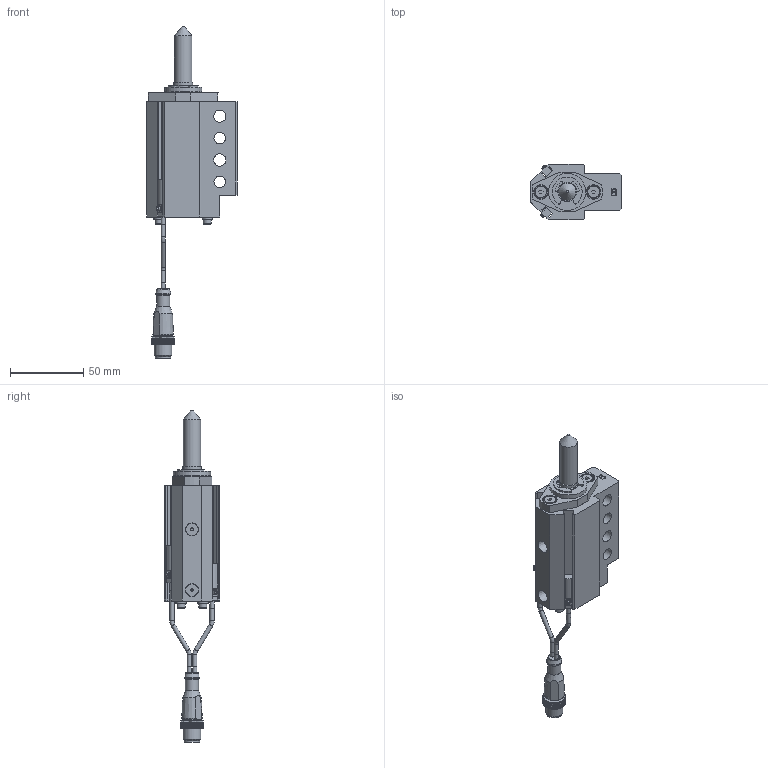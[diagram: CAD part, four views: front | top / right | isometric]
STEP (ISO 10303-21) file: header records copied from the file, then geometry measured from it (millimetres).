
FILE_DESCRIPTION(/* description */ ('NAAMS FLOATING MICRO PIN'),/* implementation_level */ '2;1');
FILE_NAME(/* name */ 'C:\Vault Workspace\CAD\Welker\Shot Pin\NMP\NMP120032ABNL3.stp',/* time_stamp */ '2021-01-27T10:42:57-05:00',/* author */ ('WELKER'),/* organization */ (''),/* preprocessor_version */ 'ST-DEVELOPER v18.1',/* originating_system */ 'Autodesk Inventor 2020',/* authorisation */ '');
FILE_SCHEMA (('AUTOMOTIVE_DESIGN { 1 0 10303 214 3 1 1 }'));
Length unit declared in the file: millimetre
Products named in the file (16): NMPL01; NMP L3 SWITCH; L3 Connector; L3 Sensor 1; L3 Sensor 2; L3 Sensor cable; L3 Sensor cable 2; M3X0.5-8 SHCS; NL3; NMPE06; NMPE03; NMPE05-DIA-LENGTH; 985432A218; NMPE01B-PORT; RMPE02; M5X5 SHOULDER
Assembly tree (22 placements, depth 3):
  NMPL01
    NMP L3 SWITCH
      L3 Connector
      L3 Sensor 1
      L3 Sensor 2
      L3 Sensor cable
      L3 Sensor cable 2
    M3X0.5-8 SHCS  x4
    NL3  x4
    NMPE06
    NMPE03
    NMPE05-DIA-LENGTH
    985432A218
    NMPE01B-PORT
    RMPE02
    M5X5 SHOULDER  x2
Bounding box: 62 x 38.1 x 227.12 mm (x, y, z)
Volume: 113701.3 mm3; surface area: 46076.1 mm2
Topology: 21 solids, 21 shells, 758 faces, 2052 edges, 1372 vertices
Faces by surface type: plane 553, cylinder 144, cone 31, bspline 16, torus 11, sphere 3
Full cylindrical faces by diameter (mm): 2 x2, 2.459 x4, 2.9 x10, 3 x5, 3.242 x2, 3.4 x4, 4 x2, 5 x6, 5.5 x4, 7 x4, 8 x2, 8.3 x2, 8.376 x2, 9 x3, 10 x3, 10.4 x1, 10.5 x1, 12 x2, 13 x3, 16 x2, 19.05 x3, 21 x1, 22.5 x1, 23.672 x1, 24 x1, 25.4 x1, 25.5 x1, 26.5 x1, 28.677 x1, 29.21 x1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
Entity records: 23201 total; most frequent: CARTESIAN_POINT 4367, ORIENTED_EDGE 3802, DIRECTION 3727, EDGE_CURVE 1901, LINE 1393, VECTOR 1393, VERTEX_POINT 1277, AXIS2_PLACEMENT_3D 1167
